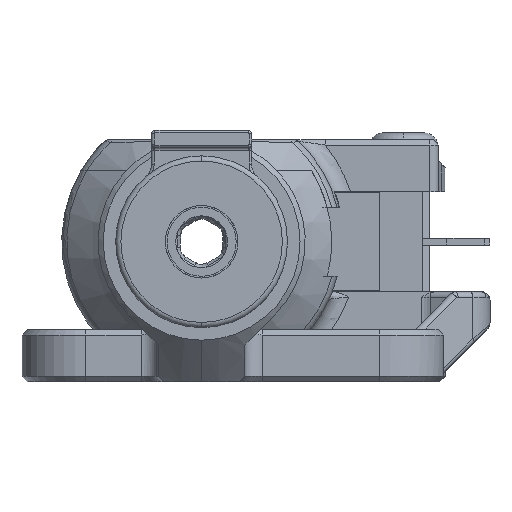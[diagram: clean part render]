
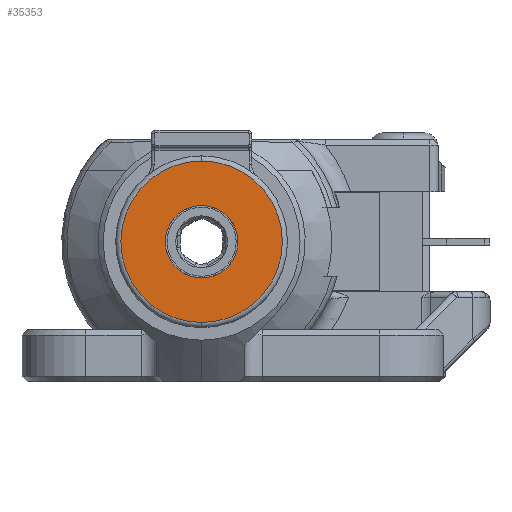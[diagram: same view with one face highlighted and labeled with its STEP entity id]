
A CAD part, left-side view. The second image highlights one B-rep face of the part: STEP entity #35353.
In plain terms, the highlighted planar face has unit normal (-1, 0, 0) as drawn and (0, 1, 0) by its records, which use the part's own axes.
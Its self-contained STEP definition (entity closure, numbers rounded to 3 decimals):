
#412 = FACE_BOUND ( 'NONE', #32512, .T. ) ;
#652 = DIRECTION ( 'NONE',  ( 0., 1., 0. ) ) ;
#1137 = CARTESIAN_POINT ( 'NONE',  ( 0., 0., 4.675 ) ) ;
#3029 = EDGE_LOOP ( 'NONE', ( #38330, #37821 ) ) ;
#3352 = DIRECTION ( 'NONE',  ( 0., 0., 1. ) ) ;
#3961 = DIRECTION ( 'NONE',  ( 0., 1., 0. ) ) ;
#5126 = CARTESIAN_POINT ( 'NONE',  ( 2.1, 0., 0. ) ) ;
#5443 = EDGE_CURVE ( 'NONE', #10121, #39059, #17320, .T. ) ;
#9472 = EDGE_CURVE ( 'NONE', #27389, #40174, #20965, .T. ) ;
#10121 = VERTEX_POINT ( 'NONE', #35171 ) ;
#10590 = CARTESIAN_POINT ( 'NONE',  ( 0., 0., 0. ) ) ;
#11265 = ORIENTED_EDGE ( 'NONE', *, *, #23913, .F. ) ;
#12320 = AXIS2_PLACEMENT_3D ( 'NONE', #51077, #34700, #3352 ) ;
#13198 = CARTESIAN_POINT ( 'NONE',  ( 0., 0., 0. ) ) ;
#15851 = DIRECTION ( 'NONE',  ( 0., 0., -1. ) ) ;
#17320 = CIRCLE ( 'NONE', #12320, 2.1 ) ;
#18645 = CARTESIAN_POINT ( 'NONE',  ( 0., 0., 0. ) ) ;
#19003 = CIRCLE ( 'NONE', #48108, 4.675 ) ;
#20965 = CIRCLE ( 'NONE', #40093, 4.675 ) ;
#22303 = DIRECTION ( 'NONE',  ( 0., 0., 1. ) ) ;
#23913 = EDGE_CURVE ( 'NONE', #39059, #10121, #33705, .T. ) ;
#24368 = CARTESIAN_POINT ( 'NONE',  ( 0., 0., -4.675 ) ) ;
#24739 = FACE_OUTER_BOUND ( 'NONE', #3029, .T. ) ;
#24991 = PLANE ( 'NONE',  #46106 ) ;
#25416 = AXIS2_PLACEMENT_3D ( 'NONE', #18645, #31390, #22303 ) ;
#27389 = VERTEX_POINT ( 'NONE', #24368 ) ;
#29131 = DIRECTION ( 'NONE',  ( 0., 0., -1. ) ) ;
#31390 = DIRECTION ( 'NONE',  ( 0., 1., 0. ) ) ;
#32512 = EDGE_LOOP ( 'NONE', ( #11265, #44730 ) ) ;
#33705 = CIRCLE ( 'NONE', #25416, 2.1 ) ;
#34700 = DIRECTION ( 'NONE',  ( 0., 1., 0. ) ) ;
#35171 = CARTESIAN_POINT ( 'NONE',  ( 0., 0., -2.1 ) ) ;
#35353 = ADVANCED_FACE ( 'NONE', ( #24739, #412 ), #24991, .F. ) ;
#35688 = DIRECTION ( 'NONE',  ( 0., -1., 0. ) ) ;
#37821 = ORIENTED_EDGE ( 'NONE', *, *, #50834, .T. ) ;
#38330 = ORIENTED_EDGE ( 'NONE', *, *, #9472, .T. ) ;
#39059 = VERTEX_POINT ( 'NONE', #46209 ) ;
#39990 = DIRECTION ( 'NONE',  ( 0., 0., -1. ) ) ;
#40093 = AXIS2_PLACEMENT_3D ( 'NONE', #10590, #3961, #39990 ) ;
#40174 = VERTEX_POINT ( 'NONE', #1137 ) ;
#44730 = ORIENTED_EDGE ( 'NONE', *, *, #5443, .F. ) ;
#46106 = AXIS2_PLACEMENT_3D ( 'NONE', #5126, #35688, #15851 ) ;
#46209 = CARTESIAN_POINT ( 'NONE',  ( 0., 0., 2.1 ) ) ;
#48108 = AXIS2_PLACEMENT_3D ( 'NONE', #13198, #652, #29131 ) ;
#50834 = EDGE_CURVE ( 'NONE', #40174, #27389, #19003, .T. ) ;
#51077 = CARTESIAN_POINT ( 'NONE',  ( 0., 0., 0. ) ) ;
